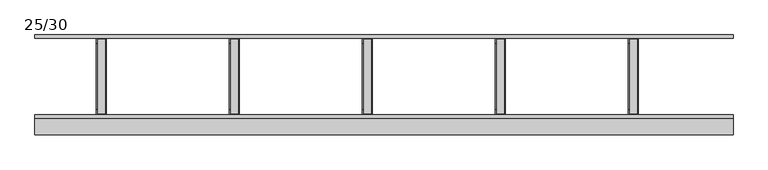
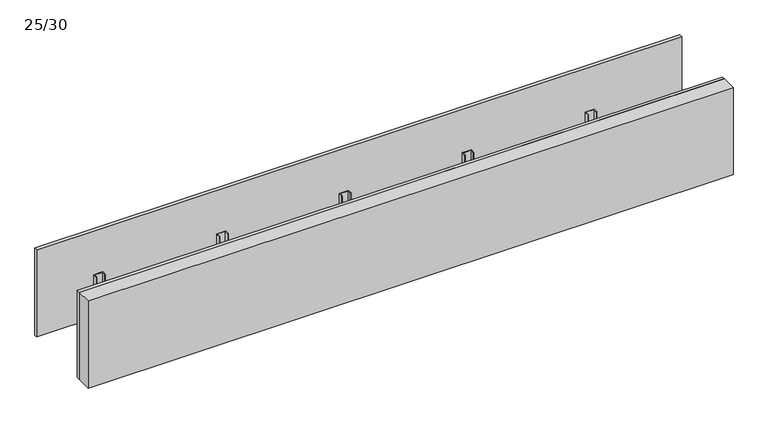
"""IFC4 building model written with IfcOpenShell, lengths in millimetres: proxy geometry, Thermoring : 25/30."""

from ifc_helpers import new_model, si_unit, origin, origin_with_axes, place, context, project, spatial, polyline, outline, extrude, faceted_brep, source, transform, mapped, element, save


def proxy_25_30_84c061ed(model_context):
    return source(origin(), model_context, "Body", "SolidModel", [
        faceted_brep([(1785.0, -10.0, 150.0), (1785.0, -25.0, 150.0), (1787.0, -25.0, 150.0), (1787.0, -12.0, 150.0), (1813.0, -12.0, 150.0), (1813.0, -25.0, 150.0), (1815.0, -25.0, 150.0), (1815.0, -10.0, 150.0), (1815.0, -10.0, 0.0), (1785.0, -10.0, 0.0), (1815.0, -25.0, 15.0), (1815.0, -225.0, 15.0), (1815.0, -225.0, 150.0), (1815.0, -240.0, 150.0), (1815.0, -240.0, 0.0), (1813.0, -25.0, 15.0), (1813.0, -12.0, 2.0), (1813.0, -238.0, 2.0), (1813.0, -238.0, 150.0), (1813.0, -225.0, 150.0), (1813.0, -225.0, 15.0), (1787.0, -12.0, 2.0), (1787.0, -25.0, 15.0), (1787.0, -225.0, 15.0), (1787.0, -225.0, 150.0), (1787.0, -238.0, 150.0), (1787.0, -238.0, 2.0), (1785.0, -25.0, 15.0), (1785.0, -240.0, 0.0), (1785.0, -240.0, 150.0), (1785.0, -225.0, 150.0), (1785.0, -225.0, 15.0)], [[[0, 1, 2, 3, 4, 5, 6, 7]], [[7, 8, 9, 0]], [[6, 10, 11, 12, 13, 14, 8, 7]], [[5, 15, 10, 6]], [[4, 16, 17, 18, 19, 20, 15, 5]], [[3, 21, 16, 4]], [[2, 22, 23, 24, 25, 26, 21, 3]], [[1, 27, 22, 2]], [[0, 9, 28, 29, 30, 31, 27, 1]], [[8, 14, 28, 9]], [[15, 20, 11, 10]], [[21, 26, 17, 16]], [[27, 31, 23, 22]], [[29, 13, 12, 19, 18, 25, 24, 30]], [[14, 13, 29, 28]], [[20, 19, 12, 11]], [[26, 25, 18, 17]], [[31, 30, 24, 23]]]),
        faceted_brep([(1385.0, -10.0, 150.0), (1385.0, -25.0, 150.0), (1387.0, -25.0, 150.0), (1387.0, -12.0, 150.0), (1413.0, -12.0, 150.0), (1413.0, -25.0, 150.0), (1415.0, -25.0, 150.0), (1415.0, -10.0, 150.0), (1415.0, -10.0, 0.0), (1385.0, -10.0, 0.0), (1415.0, -25.0, 15.0), (1415.0, -225.0, 15.0), (1415.0, -225.0, 150.0), (1415.0, -240.0, 150.0), (1415.0, -240.0, 0.0), (1413.0, -25.0, 15.0), (1413.0, -12.0, 2.0), (1413.0, -238.0, 2.0), (1413.0, -238.0, 150.0), (1413.0, -225.0, 150.0), (1413.0, -225.0, 15.0), (1387.0, -12.0, 2.0), (1387.0, -25.0, 15.0), (1387.0, -225.0, 15.0), (1387.0, -225.0, 150.0), (1387.0, -238.0, 150.0), (1387.0, -238.0, 2.0), (1385.0, -25.0, 15.0), (1385.0, -240.0, 0.0), (1385.0, -240.0, 150.0), (1385.0, -225.0, 150.0), (1385.0, -225.0, 15.0)], [[[0, 1, 2, 3, 4, 5, 6, 7]], [[7, 8, 9, 0]], [[6, 10, 11, 12, 13, 14, 8, 7]], [[5, 15, 10, 6]], [[4, 16, 17, 18, 19, 20, 15, 5]], [[3, 21, 16, 4]], [[2, 22, 23, 24, 25, 26, 21, 3]], [[1, 27, 22, 2]], [[0, 9, 28, 29, 30, 31, 27, 1]], [[8, 14, 28, 9]], [[15, 20, 11, 10]], [[21, 26, 17, 16]], [[27, 31, 23, 22]], [[29, 13, 12, 19, 18, 25, 24, 30]], [[14, 13, 29, 28]], [[20, 19, 12, 11]], [[26, 25, 18, 17]], [[31, 30, 24, 23]]]),
        faceted_brep([(985.0, -10.0, 150.0), (985.0, -25.0, 150.0), (987.0, -25.0, 150.0), (987.0, -12.0, 150.0), (1013.0, -12.0, 150.0), (1013.0, -25.0, 150.0), (1015.0, -25.0, 150.0), (1015.0, -10.0, 150.0), (1015.0, -10.0, 0.0), (985.0, -10.0, 0.0), (1015.0, -25.0, 15.0), (1015.0, -225.0, 15.0), (1015.0, -225.0, 150.0), (1015.0, -240.0, 150.0), (1015.0, -240.0, 0.0), (1013.0, -25.0, 15.0), (1013.0, -12.0, 2.0), (1013.0, -238.0, 2.0), (1013.0, -238.0, 150.0), (1013.0, -225.0, 150.0), (1013.0, -225.0, 15.0), (987.0, -12.0, 2.0), (987.0, -25.0, 15.0), (987.0, -225.0, 15.0), (987.0, -225.0, 150.0), (987.0, -238.0, 150.0), (987.0, -238.0, 2.0), (985.0, -25.0, 15.0), (985.0, -240.0, 0.0), (985.0, -240.0, 150.0), (985.0, -225.0, 150.0), (985.0, -225.0, 15.0)], [[[0, 1, 2, 3, 4, 5, 6, 7]], [[7, 8, 9, 0]], [[6, 10, 11, 12, 13, 14, 8, 7]], [[5, 15, 10, 6]], [[4, 16, 17, 18, 19, 20, 15, 5]], [[3, 21, 16, 4]], [[2, 22, 23, 24, 25, 26, 21, 3]], [[1, 27, 22, 2]], [[0, 9, 28, 29, 30, 31, 27, 1]], [[8, 14, 28, 9]], [[15, 20, 11, 10]], [[21, 26, 17, 16]], [[27, 31, 23, 22]], [[29, 13, 12, 19, 18, 25, 24, 30]], [[14, 13, 29, 28]], [[20, 19, 12, 11]], [[26, 25, 18, 17]], [[31, 30, 24, 23]]]),
        faceted_brep([(585.0, -10.0, 150.0), (585.0, -25.0, 150.0), (587.0, -25.0, 150.0), (587.0, -12.0, 150.0), (613.0, -12.0, 150.0), (613.0, -25.0, 150.0), (615.0, -25.0, 150.0), (615.0, -10.0, 150.0), (615.0, -10.0, 0.0), (585.0, -10.0, 0.0), (615.0, -25.0, 15.0), (615.0, -225.0, 15.0), (615.0, -225.0, 150.0), (615.0, -240.0, 150.0), (615.0, -240.0, 0.0), (613.0, -25.0, 15.0), (613.0, -12.0, 2.0), (613.0, -238.0, 2.0), (613.0, -238.0, 150.0), (613.0, -225.0, 150.0), (613.0, -225.0, 15.0), (587.0, -12.0, 2.0), (587.0, -25.0, 15.0), (587.0, -225.0, 15.0), (587.0, -225.0, 150.0), (587.0, -238.0, 150.0), (587.0, -238.0, 2.0), (585.0, -25.0, 15.0), (585.0, -240.0, 0.0), (585.0, -240.0, 150.0), (585.0, -225.0, 150.0), (585.0, -225.0, 15.0)], [[[0, 1, 2, 3, 4, 5, 6, 7]], [[7, 8, 9, 0]], [[6, 10, 11, 12, 13, 14, 8, 7]], [[5, 15, 10, 6]], [[4, 16, 17, 18, 19, 20, 15, 5]], [[3, 21, 16, 4]], [[2, 22, 23, 24, 25, 26, 21, 3]], [[1, 27, 22, 2]], [[0, 9, 28, 29, 30, 31, 27, 1]], [[8, 14, 28, 9]], [[15, 20, 11, 10]], [[21, 26, 17, 16]], [[27, 31, 23, 22]], [[29, 13, 12, 19, 18, 25, 24, 30]], [[14, 13, 29, 28]], [[20, 19, 12, 11]], [[26, 25, 18, 17]], [[31, 30, 24, 23]]]),
        faceted_brep([(185.0, -10.0, 150.0), (185.0, -25.0, 150.0), (187.0, -25.0, 150.0), (187.0, -12.0, 150.0), (213.0, -12.0, 150.0), (213.0, -25.0, 150.0), (215.0, -25.0, 150.0), (215.0, -10.0, 150.0), (215.0, -10.0, 0.0), (185.0, -10.0, 0.0), (215.0, -25.0, 15.0), (215.0, -225.0, 15.0), (215.0, -225.0, 150.0), (215.0, -240.0, 150.0), (215.0, -240.0, 0.0), (213.0, -25.0, 15.0), (213.0, -12.0, 2.0), (213.0, -238.0, 2.0), (213.0, -238.0, 150.0), (213.0, -225.0, 150.0), (213.0, -225.0, 15.0), (187.0, -12.0, 2.0), (187.0, -25.0, 15.0), (187.0, -225.0, 15.0), (187.0, -225.0, 150.0), (187.0, -238.0, 150.0), (187.0, -238.0, 2.0), (185.0, -25.0, 15.0), (185.0, -240.0, 0.0), (185.0, -240.0, 150.0), (185.0, -225.0, 150.0), (185.0, -225.0, 15.0)], [[[0, 1, 2, 3, 4, 5, 6, 7]], [[7, 8, 9, 0]], [[6, 10, 11, 12, 13, 14, 8, 7]], [[5, 15, 10, 6]], [[4, 16, 17, 18, 19, 20, 15, 5]], [[3, 21, 16, 4]], [[2, 22, 23, 24, 25, 26, 21, 3]], [[1, 27, 22, 2]], [[0, 9, 28, 29, 30, 31, 27, 1]], [[8, 14, 28, 9]], [[15, 20, 11, 10]], [[21, 26, 17, 16]], [[27, 31, 23, 22]], [[29, 13, 12, 19, 18, 25, 24, 30]], [[14, 13, 29, 28]], [[20, 19, 12, 11]], [[26, 25, 18, 17]], [[31, 30, 24, 23]]]),
        extrude(outline(polyline([(2100.0, -10.0), (0.0, -10.0), (0.0, 0.0), (2100.0, 0.0), (2100.0, -10.0)])), origin_with_axes(), (0.0, 0.0, 1.0), 300.0),
        extrude(outline(polyline([(2100.0, -250.0), (0.0, -250.0), (0.0, -240.0), (2100.0, -240.0), (2100.0, -250.0)])), origin_with_axes(), (0.0, 0.0, 1.0), 300.0),
        extrude(outline(polyline([(2100.0, -300.0), (0.0, -300.0), (0.0, -250.0), (2100.0, -250.0), (2100.0, -300.0)])), origin_with_axes(), (0.0, 0.0, 1.0), 300.0),
    ])


if __name__ == "__main__":
    model = new_model("IFC4")
    model_context = context("Model", 3, world=origin())
    ifc_project = project(units=[si_unit("LENGTHUNIT", "METRE", prefix="MILLI")], contexts=[model_context])
    site = spatial("IfcSite", under=ifc_project)
    building = spatial("IfcBuilding", under=site)
    placement = place(None, origin())
    proxy_25_30_shape = proxy_25_30_84c061ed(model_context)
    element("IfcBuildingElementProxy", 1, Name="Thermoring : 25/30", ObjectType="Thermoring : 25/30", at=placement, inside=building, context=model_context, shape_type="MappedRepresentation", body=[
        mapped(proxy_25_30_shape, transform((0.0, 0.0, 0.0), x_axis=(1.0, 0.0, 0.0), y_axis=(0.0, 1.0, 0.0), z_axis=(0.0, 0.0, 1.0))),
    ])
    save(model, "model.ifc")
